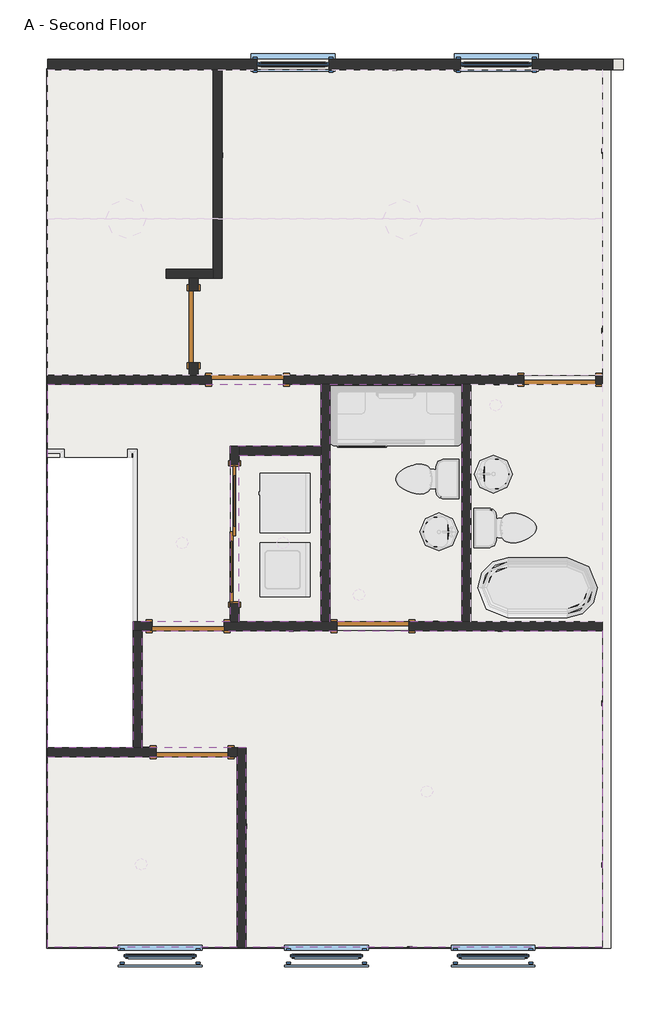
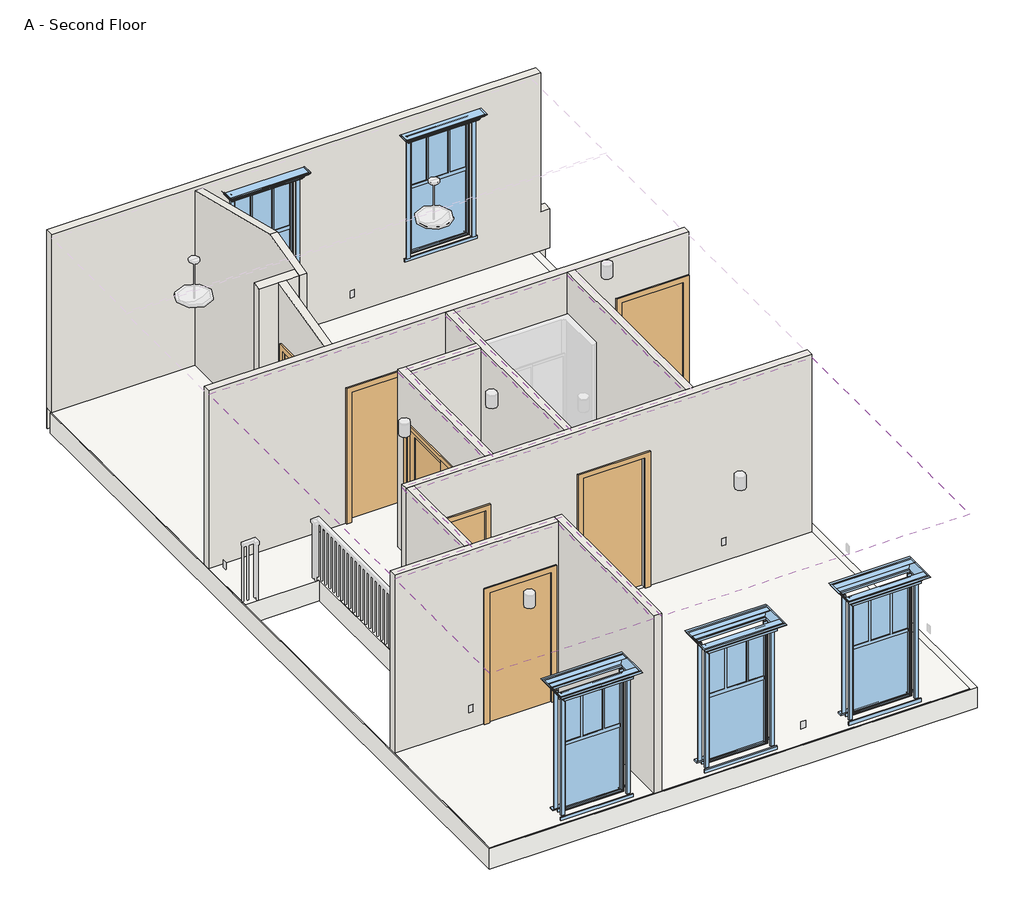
# One storey, part 1 of 2: 13 walls, 7 doors, 5 coverings, 5 windows, 2 slabs.
"""IFC4 building model written with IfcOpenShell, lengths in millimetres."""

from ifc_helpers import new_model, si_unit, point, frame, frame_2d, origin, place, context, project, spatial, polyline, circle_curve, trimmed, segment, composite_curve, outline, extrude, faceted_brep, transform, mapped, element, save
from components import door_2e073e5e, door_5e62189b, door_17d80c48, craftsman_style_single_window_l_craftsman_style_single_78b914de, craftsman_style_single_window_l_craftsman_style_single_4874115d

model = new_model("IFC4")

# Units and contexts
model_context = context("Model", 3, world=origin())
ifc_project = project(units=[si_unit("LENGTHUNIT", "METRE", prefix="MILLI")], contexts=[model_context])

# Site, building, storey
site = spatial("IfcSite", under=ifc_project)
building = spatial("IfcBuilding", under=site)
storey = spatial("IfcBuildingStorey", under=building, Name="A - Second Floor", Elevation=3371.85)

# Coverings
placement = place(None, origin())
element("IfcCovering", 1, ObjectType="GWB on Furring", at=placement, inside=storey, context=model_context, shape_type="SweptSolid", body=[
    extrude(outline(polyline([(-7798.9129486, -2982.5539462), (-8840.3129486, -2982.5539462), (-8840.3129486, -861.6539462), (-7798.9129486, -861.6539462), (-7798.9129486, -2982.5539462)]), holes=[composite_curve([segment(trimmed(circle_curve(frame_2d((-8284.6879486, -1979.2539462)), 76.2), [point((-8360.8879486, -1979.2539462))], [point((-8208.4879486, -1979.2539462))], True, "CARTESIAN"), True, "CONTINUOUS"), segment(trimmed(circle_curve(frame_2d((-8284.6879486, -1979.2539462)), 76.2), [point((-8208.4879486, -1979.2539462))], [point((-8360.8879486, -1979.2539462))], True, "CARTESIAN"), True, "CONTINUOUS")], self_intersect=False)]), frame((0.0, 0.0, 6089.65), z_axis=(0.0, 0.0, 1.0), x_axis=(1.0, 0.0, 0.0)), (0.0, 0.0, 1.0), 31.75),
])
element("IfcCovering", 2, ObjectType="GWB on Furring", at=placement, inside=storey, context=model_context, shape_type="SweptSolid", body=[
    extrude(outline(polyline([(-6008.2129486, -2982.5539462), (-7684.6129486, -2982.5539462), (-7684.6129486, 40.0460538), (-6008.2129486, 40.0460538), (-6008.2129486, -2982.5539462)]), holes=[composite_curve([segment(trimmed(circle_curve(frame_2d((-7316.3129486, -2639.6539462)), 76.2), [point((-7392.5129486, -2639.6539462))], [point((-7240.1129486, -2639.6539462))], True, "CARTESIAN"), True, "CONTINUOUS"), segment(trimmed(circle_curve(frame_2d((-7316.3129486, -2639.6539462)), 76.2), [point((-7240.1129486, -2639.6539462))], [point((-7392.5129486, -2639.6539462))], True, "CARTESIAN"), True, "CONTINUOUS")], self_intersect=False)]), frame((0.0, 0.0, 6089.65), z_axis=(0.0, 0.0, 1.0), x_axis=(1.0, 0.0, 0.0)), (0.0, 0.0, 1.0), 31.75),
])
element("IfcCovering", 3, ObjectType="GWB on Furring", at=placement, inside=storey, context=model_context, shape_type="SweptSolid", body=[
    extrude(outline(polyline([(-4217.5129486, -3096.8539462), (-4217.5129486, -7122.7539462), (-8754.5879486, -7122.7539462), (-8754.5879486, -4582.7539462), (-10075.3879486, -4582.7539462), (-10075.3879486, -3096.8539462), (-4217.5129486, -3096.8539462)]), holes=[composite_curve([segment(trimmed(circle_curve(frame_2d((-6452.7129486, -5141.5539462)), 76.2), [point((-6528.9129486, -5141.5539462))], [point((-6376.5129486, -5141.5539462))], True, "CARTESIAN"), True, "CONTINUOUS"), segment(trimmed(circle_curve(frame_2d((-6452.7129486, -5141.5539462)), 76.2), [point((-6376.5129486, -5141.5539462))], [point((-6528.9129486, -5141.5539462))], True, "CARTESIAN"), True, "CONTINUOUS")], self_intersect=False)]), frame((0.0, 0.0, 6089.65), z_axis=(0.0, 0.0, 1.0), x_axis=(1.0, 0.0, 0.0)), (0.0, 0.0, 1.0), 31.75),
])
element("IfcCovering", 4, ObjectType="GWB on Furring", at=placement, inside=storey, context=model_context, shape_type="SweptSolid", body=[
    extrude(outline(polyline([(-8868.8879486, -4697.0539462), (-8868.8879486, -7122.7539462), (-11281.8879486, -7122.7539462), (-11281.8879486, -4697.0539462), (-8868.8879486, -4697.0539462)]), holes=[composite_curve([segment(trimmed(circle_curve(frame_2d((-10088.0879486, -6068.6539462)), 76.2), [point((-10164.2879486, -6068.6539462))], [point((-10011.8879486, -6068.6539462))], True, "CARTESIAN"), True, "CONTINUOUS"), segment(trimmed(circle_curve(frame_2d((-10088.0879486, -6068.6539462)), 76.2), [point((-10011.8879486, -6068.6539462))], [point((-10164.2879486, -6068.6539462))], True, "CARTESIAN"), True, "CONTINUOUS")], self_intersect=False)]), frame((0.0, 0.0, 6089.65), z_axis=(0.0, 0.0, 1.0), x_axis=(1.0, 0.0, 0.0)), (0.0, 0.0, 1.0), 31.75),
])
element("IfcCovering", 5, ObjectType="GWB on Furring", at=placement, inside=storey, context=model_context, shape_type="SweptSolid", body=[
    extrude(outline(polyline([(-11281.8879486, -4582.7539462), (-11281.8879486, 40.0460538), (-7798.9129486, 40.0460538), (-7798.9129486, -747.3539462), (-8954.6129486, -747.3539462), (-8954.6129486, -2982.5539462), (-10189.6879486, -2982.5539462), (-10189.6879486, -4582.7539462), (-11281.8879486, -4582.7539462)]), holes=[composite_curve([segment(trimmed(circle_curve(frame_2d((-9567.3879486, -1979.2539462)), 76.2), [point((-9643.5879486, -1979.2539462))], [point((-9491.1879486, -1979.2539462))], True, "CARTESIAN"), True, "CONTINUOUS"), segment(trimmed(circle_curve(frame_2d((-9567.3879486, -1979.2539462)), 76.2), [point((-9491.1879486, -1979.2539462))], [point((-9643.5879486, -1979.2539462))], True, "CARTESIAN"), True, "CONTINUOUS")], self_intersect=False)]), frame((0.0, 0.0, 6089.65), z_axis=(0.0, 0.0, 1.0), x_axis=(1.0, 0.0, 0.0)), (0.0, 0.0, 1.0), 31.75),
])

# Doors
door_shape = door_2e073e5e(model_context)
element("IfcDoor", 6, ObjectType="Door-Interior-Double-Sliding-2_Panel-Wood : 68\" x 80\"", at=placement, inside=storey, context=model_context, shape_type="MappedRepresentation", body=[
    mapped(door_shape, transform((-8900.6379486, -1864.9539462, 3371.85), x_axis=(0.0, 1.0, 0.0), y_axis=(-1.0, 0.0, 0.0), z_axis=(0.0, 0.0, 1.0))),
])
door_2_shape = door_5e62189b(model_context)
element("IfcDoor", 7, ObjectType="Single-Flush : 36\" x 80\"", at=placement, inside=storey, context=model_context, shape_type="MappedRepresentation", body=[
    mapped(door_2_shape, transform((-9440.3879486, -4639.9039462, 3371.85), x_axis=(1.0, 0.0, 0.0), y_axis=(0.0, 1.0, 0.0), z_axis=(0.0, 0.0, 1.0))),
])
element("IfcDoor", 8, ObjectType="Single-Flush : 36\" x 80\"", at=placement, inside=storey, context=model_context, shape_type="MappedRepresentation", body=[
    mapped(door_2_shape, transform((-8733.9504486, 97.1960538, 3371.85), x_axis=(-1.0, 0.0, 0.0), y_axis=(0.0, -1.0, 0.0), z_axis=(0.0, 0.0, 1.0))),
])
element("IfcDoor", 9, ObjectType="Single-Flush : 36\" x 80\"", at=placement, inside=storey, context=model_context, shape_type="MappedRepresentation", body=[
    mapped(door_2_shape, transform((-9421.3379486, 770.2960538, 3371.85), x_axis=(0.0, -1.0, 0.0), y_axis=(1.0, 0.0, 0.0), z_axis=(0.0, 0.0, 1.0))),
])
element("IfcDoor", 10, ObjectType="Single-Flush : 36\" x 80\"", at=placement, inside=storey, context=model_context, shape_type="MappedRepresentation", body=[
    mapped(door_2_shape, transform((-7138.5129486, -3039.7039462, 3371.85), x_axis=(-1.0, 0.0, 0.0), y_axis=(0.0, -1.0, 0.0), z_axis=(0.0, 0.0, 1.0))),
])
element("IfcDoor", 11, ObjectType="Single-Flush : 36\" x 80\"", at=placement, inside=storey, context=model_context, shape_type="MappedRepresentation", body=[
    mapped(door_2_shape, transform((-4760.4379486, 97.1960538, 3371.85), x_axis=(1.0, 0.0, 0.0), y_axis=(0.0, 1.0, 0.0), z_axis=(0.0, 0.0, 1.0))),
])
door_3_shape = door_17d80c48(model_context)
element("IfcDoor", 12, ObjectType="Single-Flush : 36\" x 80\"", at=placement, inside=storey, context=model_context, shape_type="MappedRepresentation", body=[
    mapped(door_3_shape, transform((-9491.1879486, -3039.7039462, 3371.85), x_axis=(-1.0, 0.0, 0.0), y_axis=(0.0, -1.0, 0.0), z_axis=(0.0, 0.0, 1.0))),
])

# Slabs
element("IfcSlab", 13, ObjectType="Wood Truss  Joist 12\"", at=placement, inside=storey, context=model_context, shape_type="Brep", body=[
    faceted_brep([(-11294.5879486, 4053.2460538, 3051.175), (-11281.8879486, 4053.2460538, 3051.175), (-4217.5129486, 4053.2460538, 3051.175), (-4112.7379486, 4053.2460538, 3051.175), (-4112.7379486, 3430.9460538, 3051.175), (-4112.7379486, -7122.7539462, 3051.175), (-4112.7379486, -7135.4539462, 3051.175), (-11294.5879486, -7135.4539462, 3051.175), (-11294.5879486, -7122.7539462, 3051.175), (-11294.5879486, 3497.6210538, 3051.175), (-11281.8879486, -4582.7539462, 3051.175), (-10189.6879486, -4582.7539462, 3051.175), (-10189.6879486, -887.0539462, 3051.175), (-11281.8879486, -887.0539462, 3051.175), (-4112.7379486, 4053.2460538, 3371.85), (-4217.5129486, 4053.2460538, 3371.85), (-11281.8879486, 4053.2460538, 3371.85), (-11294.5879486, 4053.2460538, 3371.85), (-11294.5879486, 3497.6210538, 3371.85), (-11294.5879486, -7122.7539462, 3371.85), (-11294.5879486, -7135.4539462, 3371.85), (-4112.7379486, -7135.4539462, 3371.85), (-4112.7379486, -7122.7539462, 3371.85), (-4112.7379486, 3430.9460538, 3371.85), (-4112.7379486, 4040.5460538, 3371.85), (-10189.6879486, -4582.7539462, 3371.85), (-11281.8879486, -4582.7539462, 3371.85), (-11281.8879486, -887.0539462, 3371.85), (-10189.6879486, -887.0539462, 3371.85)], [[[0, 1, 2, 3, 4, 5, 6, 7, 8, 9], [10, 11, 12, 13]], [[14, 15, 16, 17, 18, 19, 20, 21, 22, 23, 24], [25, 26, 27, 28]], [[3, 2, 1, 0, 17, 16, 15, 14]], [[6, 5, 4, 3, 14, 24, 23, 22, 21]], [[7, 6, 21, 20]], [[0, 9, 8, 7, 20, 19, 18, 17]], [[10, 26, 25, 11]], [[11, 25, 28, 12]], [[12, 28, 27, 13]], [[26, 10, 13, 27]]]),
])
element("IfcSlab", 14, ObjectType="Carpet Finish - 1/8\"", at=placement, inside=storey, context=model_context, shape_type="SweptSolid", body=[
    extrude(outline(polyline([(-11281.8879486, -4697.0539462), (-9899.2794046, -4697.0539462), (-9899.2794046, -4570.0539462), (-10075.3879486, -4570.0539462), (-10075.3879486, -3096.8539462), (-9948.3879486, -3096.8539462), (-9948.3879486, -2982.5539462), (-10189.6879486, -2982.5539462), (-10189.6879486, -887.0539462), (-11281.8879486, -887.0539462), (-11281.8879486, 40.0460538), (-9191.1504486, 40.0460538), (-9191.1504486, 154.3460538), (-9364.1879486, 154.3460538), (-9364.1879486, 313.0960538), (-9478.4879486, 313.0960538), (-9478.4879486, 154.3460538), (-11281.8879486, 154.3460538), (-11281.8879486, 4040.5460538), (-9173.6879486, 4040.5460538), (-9173.6879486, 1500.5460538), (-9770.5879486, 1500.5460538), (-9770.5879486, 1386.2460538), (-9478.4879486, 1386.2460538), (-9478.4879486, 1229.1875098), (-9376.8879486, 1229.1875098), (-9364.1879486, 1386.2460538), (-9059.3879486, 1386.2460538), (-9059.3879486, 4040.5460538), (-4217.5129486, 4040.5460538), (-4217.5129486, 154.3460538), (-4303.2379486, 154.3460538), (-5217.6379486, 154.3460538), (-8276.7504486, 154.3460538), (-8276.7504486, 40.0460538), (-7798.9129486, 40.0460538), (-7798.9129486, -747.3539462), (-8954.6129486, -747.3539462), (-8954.6129486, -2982.5539462), (-9033.9879486, -2982.5539462), (-9033.9879486, -3096.8539462), (-7900.5129486, -3096.8539462), (-6986.1129486, -3096.8539462), (-4217.5129486, -3096.8539462), (-4217.5129486, -7122.7539462), (-8754.5879486, -7122.7539462), (-8754.5879486, -4582.7539462), (-8983.1879486, -4582.7539462), (-8983.1879486, -4697.0539462), (-8868.8879486, -4697.0539462), (-8868.8879486, -7122.7539462), (-11281.8879486, -7122.7539462), (-11281.8879486, -4697.0539462)])), frame((0.0, 0.0, 3371.85), z_axis=(0.0, 0.0, 1.0), x_axis=(1.0, 0.0, 0.0)), (0.0, 0.0, 1.0), 3.175),
])

# Walls
element("IfcWall", 15, ObjectType="Exterior - Wood Siding on Wood Stud", at=placement, inside=storey, context=model_context, shape_type="Brep", body=[
    faceted_brep([(-3950.8129486, 4173.8960538, 3051.175), (-11281.8879486, 4173.8960538, 3051.175), (-11281.8879486, 4173.8960538, 3371.85), (-11281.8879486, 4173.8960538, 6127.75), (-11281.8879486, 4173.8960538, 6140.45), (-4084.1629486, 4173.8960538, 6140.45), (-4084.1629486, 4173.8960538, 3981.45), (-3950.8129486, 4173.8960538, 3981.45), (-8614.8879486, 4173.8960538, 5784.85), (-8614.8879486, 4173.8960538, 3956.05), (-7700.4879486, 4173.8960538, 3956.05), (-7700.4879486, 4173.8960538, 5784.85), (-6024.0879486, 4173.8960538, 5784.85), (-6024.0879486, 4173.8960538, 3956.05), (-5109.6879486, 4173.8960538, 3956.05), (-5109.6879486, 4173.8960538, 5784.85), (-3950.8129486, 4040.5460538, 3371.85), (-3950.8129486, 4040.5460538, 3981.45), (-4084.1629486, 4040.5460538, 3981.45), (-4084.1629486, 4040.5460538, 6140.45), (-11281.8879486, 4040.5460538, 6140.45), (-11281.8879486, 4040.5460538, 3371.85), (-9173.6879486, 4040.5460538, 3371.85), (-9059.3879486, 4040.5460538, 3371.85), (-4217.5129486, 4040.5460538, 3371.85), (-8614.8879486, 4040.5460538, 5784.85), (-7700.4879486, 4040.5460538, 5784.85), (-7700.4879486, 4040.5460538, 3956.05), (-8614.8879486, 4040.5460538, 3956.05), (-6024.0879486, 4040.5460538, 5784.85), (-5109.6879486, 4040.5460538, 5784.85), (-5109.6879486, 4040.5460538, 3956.05), (-6024.0879486, 4040.5460538, 3956.05), (-11281.8879486, 4154.8460538, 3051.175), (-11281.8879486, 4154.8460538, 3371.85), (-11281.8879486, 4107.2210538, 3371.85), (-11281.8879486, 4053.2460538, 3371.85), (-3950.8129486, 4107.2210538, 3371.85), (-3950.8129486, 4154.8460538, 3371.85), (-3950.8129486, 4154.8460538, 3051.175), (-4084.1629486, 4154.8460538, 3981.45)], [[[0, 1, 2, 3, 4, 5, 6, 7], [8, 9, 10, 11], [12, 13, 14, 15]], [[16, 17, 18, 19, 20, 21, 22, 23, 24], [25, 26, 27, 28], [29, 30, 31, 32]], [[5, 4, 20, 19]], [[4, 3, 2, 1, 33, 34, 35, 36, 21, 20]], [[0, 7, 17, 16, 37, 38, 39]], [[38, 37, 16, 24, 23, 22, 21, 36, 35, 34]], [[33, 39, 38, 34]], [[1, 0, 39, 33]], [[9, 8, 25, 28]], [[10, 9, 28, 27]], [[11, 10, 27, 26]], [[8, 11, 26, 25]], [[13, 12, 29, 32]], [[14, 13, 32, 31]], [[15, 14, 31, 30]], [[12, 15, 30, 29]], [[5, 19, 18, 40, 6]], [[6, 40, 18, 17, 7]]]),
])
element("IfcWall", 16, ObjectType="Interior - 4 1/2\" Partition", at=placement, inside=storey, context=model_context, shape_type="Brep", body=[
    faceted_brep([(-9033.9879486, -3096.8539462, 3371.85), (-7595.7129486, -3096.8539462, 3371.85), (-7595.7129486, -3096.8539462, 5403.85), (-6681.3129486, -3096.8539462, 5403.85), (-6681.3129486, -3096.8539462, 3371.85), (-4217.5129486, -3096.8539462, 3371.85), (-4217.5129486, -3096.8539462, 6140.45), (-10075.3879486, -3096.8539462, 6140.45), (-10189.6879486, -3096.8539462, 6140.45), (-10189.6879486, -3096.8539462, 3371.85), (-10075.3879486, -3096.8539462, 3371.85), (-9948.3879486, -3096.8539462, 3371.85), (-9948.3879486, -3096.8539462, 5403.85), (-9033.9879486, -3096.8539462, 5403.85), (-7595.7129486, -2982.5539462, 5403.85), (-7595.7129486, -2982.5539462, 3371.85), (-7684.6129486, -2982.5539462, 3371.85), (-7798.9129486, -2982.5539462, 3371.85), (-8840.3129486, -2982.5539462, 3371.85), (-8954.6129486, -2982.5539462, 3371.85), (-9033.9879486, -2982.5539462, 3371.85), (-9033.9879486, -2982.5539462, 5403.85), (-9948.3879486, -2982.5539462, 5403.85), (-9948.3879486, -2982.5539462, 3371.85), (-10189.6879486, -2982.5539462, 3371.85), (-10189.6879486, -2982.5539462, 6140.45), (-8954.6129486, -2982.5539462, 6140.45), (-8840.3129486, -2982.5539462, 6140.45), (-7798.9129486, -2982.5539462, 6140.45), (-7684.6129486, -2982.5539462, 6140.45), (-6008.2129486, -2982.5539462, 6140.45), (-5893.9129486, -2982.5539462, 6140.45), (-4217.5129486, -2982.5539462, 6140.45), (-4217.5129486, -2982.5539462, 3371.85), (-5893.9129486, -2982.5539462, 3371.85), (-6008.2129486, -2982.5539462, 3371.85), (-6681.3129486, -2982.5539462, 3371.85), (-6681.3129486, -2982.5539462, 5403.85)], [[[0, 1, 2, 3, 4, 5, 6, 7, 8, 9, 10, 11, 12, 13]], [[14, 15, 16, 17, 18, 19, 20, 21, 22, 23, 24, 25, 26, 27, 28, 29, 30, 31, 32, 33, 34, 35, 36, 37]], [[24, 23, 11, 10, 9]], [[36, 35, 34, 33, 5, 4]], [[20, 19, 18, 17, 16, 15, 1, 0]], [[8, 7, 6, 32, 31, 30, 29, 28, 27, 26, 25]], [[12, 11, 23, 22]], [[13, 12, 22, 21]], [[0, 13, 21, 20]], [[2, 1, 15, 14]], [[3, 2, 14, 37]], [[4, 3, 37, 36]], [[9, 8, 25, 24]], [[5, 33, 32, 6]]]),
])
element("IfcWall", 17, ObjectType="Interior - 4 1/2\" Partition", at=placement, inside=storey, context=model_context, shape_type="Brep", body=[
    faceted_brep([(-4217.5129486, 154.3460538, 3371.85), (-4303.2379486, 154.3460538, 3371.85), (-4303.2379486, 154.3460538, 5403.85), (-5217.6379486, 154.3460538, 5403.85), (-5217.6379486, 154.3460538, 3371.85), (-8276.7504486, 154.3460538, 3371.85), (-8276.7504486, 154.3460538, 5403.85), (-9191.1504486, 154.3460538, 5403.85), (-9191.1504486, 154.3460538, 3371.85), (-9364.1879486, 154.3460538, 3371.85), (-9478.4879486, 154.3460538, 3371.85), (-11281.8879486, 154.3460538, 3371.85), (-11281.8879486, 154.3460538, 6140.45), (-4217.5129486, 154.3460538, 6140.45), (-4303.2379486, 40.0460538, 5403.85), (-4303.2379486, 40.0460538, 3371.85), (-4217.5129486, 40.0460538, 3371.85), (-4217.5129486, 40.0460538, 6140.45), (-5893.9129486, 40.0460538, 6140.45), (-6008.2129486, 40.0460538, 6140.45), (-7684.6129486, 40.0460538, 6140.45), (-7798.9129486, 40.0460538, 6140.45), (-11281.8879486, 40.0460538, 6140.45), (-11281.8879486, 40.0460538, 3371.85), (-9191.1504486, 40.0460538, 3371.85), (-9191.1504486, 40.0460538, 5403.85), (-8276.7504486, 40.0460538, 5403.85), (-8276.7504486, 40.0460538, 3371.85), (-7798.9129486, 40.0460538, 3371.85), (-7684.6129486, 40.0460538, 3371.85), (-6008.2129486, 40.0460538, 3371.85), (-5893.9129486, 40.0460538, 3371.85), (-5217.6379486, 40.0460538, 3371.85), (-5217.6379486, 40.0460538, 5403.85)], [[[0, 1, 2, 3, 4, 5, 6, 7, 8, 9, 10, 11, 12, 13]], [[14, 15, 16, 17, 18, 19, 20, 21, 22, 23, 24, 25, 26, 27, 28, 29, 30, 31, 32, 33]], [[11, 10, 9, 8, 24, 23]], [[16, 15, 1, 0]], [[32, 31, 30, 29, 28, 27, 5, 4]], [[13, 12, 22, 21, 20, 19, 18, 17]], [[12, 11, 23, 22]], [[25, 24, 8, 7]], [[26, 25, 7, 6]], [[27, 26, 6, 5]], [[2, 1, 15, 14]], [[3, 2, 14, 33]], [[4, 3, 33, 32]], [[13, 17, 16, 0]]]),
])
element("IfcWall", 18, ObjectType="Interior - 4 1/2\" Partition", at=placement, inside=storey, context=model_context, shape_type="Brep", body=[
    faceted_brep([(-9173.6879486, 4040.5460538, 3371.85), (-9173.6879486, 1500.5460538, 3371.85), (-9173.6879486, 1386.2460538, 3371.85), (-9173.6879486, 1386.2460538, 6375.4), (-9173.6879486, 1500.5460538, 6403.975), (-9173.6879486, 2141.8960538, 6564.3125), (-9173.6879486, 4040.5460538, 6089.65), (-9059.3879486, 4040.5460538, 3371.85), (-9059.3879486, 4040.5460538, 6089.65), (-9059.3879486, 2141.8960538, 6564.3125), (-9059.3879486, 1386.2460538, 6375.4), (-9059.3879486, 1386.2460538, 3371.85)], [[[0, 1, 2, 3, 4, 5, 6]], [[7, 8, 9, 10, 11]], [[2, 1, 0, 7, 11]], [[0, 6, 8, 7]], [[3, 2, 11, 10]], [[6, 5, 9, 8]], [[5, 4, 3, 10, 9]]]),
])
element("IfcWall", 19, ObjectType="Interior - 4 1/2\" Partition", at=placement, inside=storey, context=model_context, shape_type="Brep", body=[
    faceted_brep([(-9173.6879486, 1500.5460538, 3371.85), (-9770.5879486, 1500.5460538, 3371.85), (-9770.5879486, 1500.5460538, 6403.975), (-9173.6879486, 1500.5460538, 6403.975), (-9173.6879486, 1386.2460538, 3371.85), (-9173.6879486, 1386.2460538, 6375.4), (-9364.1879486, 1386.2460538, 6375.4), (-9478.4879486, 1386.2460538, 6375.4), (-9770.5879486, 1386.2460538, 6375.4), (-9770.5879486, 1386.2460538, 3371.85), (-9478.4879486, 1386.2460538, 3371.85), (-9364.1879486, 1386.2460538, 3371.85)], [[[0, 1, 2, 3]], [[4, 5, 6, 7, 8, 9, 10, 11]], [[1, 0, 4, 11, 10, 9]], [[2, 1, 9, 8]], [[0, 3, 5, 4]], [[3, 2, 8, 7, 6, 5]]]),
])
element("IfcWall", 20, ObjectType="Interior - 4 1/2\" Partition", at=placement, inside=storey, context=model_context, shape_type="SweptSolid", body=[
    extrude(outline(polyline([(313.0960538, 5403.85), (313.0960538, 3371.85), (154.3460538, 3371.85), (154.3460538, 6067.425), (1386.2460538, 6375.4), (1386.2460538, 3371.85), (1227.4960538, 3371.85), (1227.4960538, 5403.85), (313.0960538, 5403.85)])), frame((-9478.4879486, 0.0, 0.0), z_axis=(1.0, 0.0, 0.0), x_axis=(0.0, 1.0, 0.0)), (0.0, 0.0, 1.0), 114.3),
])
element("IfcWall", 21, ObjectType="Interior - 4 1/2\" Partition", at=placement, inside=storey, context=model_context, shape_type="SweptSolid", body=[
    extrude(outline(polyline([(-6008.2129486, -2982.5539462), (-6008.2129486, 40.0460538), (-5893.9129486, 40.0460538), (-5893.9129486, -2982.5539462), (-6008.2129486, -2982.5539462)])), frame((0.0, 0.0, 3371.85), z_axis=(0.0, 0.0, 1.0), x_axis=(1.0, 0.0, 0.0)), (0.0, 0.0, 1.0), 2768.6),
])
element("IfcWall", 22, ObjectType="Interior - 4 1/2\" Partition", at=placement, inside=storey, context=model_context, shape_type="Brep", body=[
    faceted_brep([(-7798.9129486, 40.0460538, 3371.85), (-7798.9129486, -747.3539462, 3371.85), (-7798.9129486, -861.6539462, 3371.85), (-7798.9129486, -2982.5539462, 3371.85), (-7798.9129486, -2982.5539462, 6140.45), (-7798.9129486, -861.6539462, 6140.45), (-7798.9129486, -747.3539462, 6140.45), (-7798.9129486, 40.0460538, 6140.45), (-7684.6129486, 40.0460538, 3371.85), (-7684.6129486, 40.0460538, 6140.45), (-7684.6129486, -2982.5539462, 6140.45), (-7684.6129486, -2982.5539462, 3371.85)], [[[0, 1, 2, 3, 4, 5, 6, 7]], [[8, 9, 10, 11]], [[3, 2, 1, 0, 8, 11]], [[7, 6, 5, 4, 10, 9]], [[4, 3, 11, 10]], [[0, 7, 9, 8]]]),
])
element("IfcWall", 23, ObjectType="Interior - 4 1/2\" Partition", at=placement, inside=storey, context=model_context, shape_type="Brep", body=[
    faceted_brep([(-8840.3129486, -747.3539462, 6140.45), (-8840.3129486, -861.6539462, 6140.45), (-8840.3129486, -2982.5539462, 6140.45), (-8840.3129486, -2982.5539462, 3371.85), (-8840.3129486, -2753.9539462, 3371.85), (-8840.3129486, -2753.9539462, 5429.25), (-8840.3129486, -975.9539462, 5429.25), (-8840.3129486, -975.9539462, 3371.85), (-8840.3129486, -861.6539462, 3371.85), (-8840.3129486, -747.3539462, 3371.85), (-8954.6129486, -2982.5539462, 6140.45), (-8954.6129486, -747.3539462, 6140.45), (-8954.6129486, -747.3539462, 3371.85), (-8954.6129486, -975.9539462, 3371.85), (-8954.6129486, -975.9539462, 5429.25), (-8954.6129486, -2753.9539462, 5429.25), (-8954.6129486, -2753.9539462, 3371.85), (-8954.6129486, -2982.5539462, 3371.85)], [[[0, 1, 2, 3, 4, 5, 6, 7, 8, 9]], [[10, 11, 12, 13, 14, 15, 16, 17]], [[3, 17, 16, 4]], [[12, 9, 8, 7, 13]], [[2, 1, 0, 11, 10]], [[3, 2, 10, 17]], [[0, 9, 12, 11]], [[6, 14, 13, 7]], [[14, 6, 5, 15]], [[15, 5, 4, 16]]]),
])
element("IfcWall", 24, ObjectType="Interior - 4 1/2\" Partition", at=placement, inside=storey, context=model_context, shape_type="SweptSolid", body=[
    extrude(outline(polyline([(-7798.9129486, -861.6539462), (-8840.3129486, -861.6539462), (-8840.3129486, -747.3539462), (-7798.9129486, -747.3539462), (-7798.9129486, -861.6539462)])), frame((0.0, 0.0, 3371.85), z_axis=(0.0, 0.0, 1.0), x_axis=(1.0, 0.0, 0.0)), (0.0, 0.0, 1.0), 2768.6),
])
element("IfcWall", 25, ObjectType="Interior - 4 1/2\" Partition", at=placement, inside=storey, context=model_context, shape_type="Brep", body=[
    faceted_brep([(-8754.5879486, -7122.7539462, 3371.85), (-8754.5879486, -4582.7539462, 3371.85), (-8754.5879486, -4582.7539462, 6140.45), (-8754.5879486, -7122.7539462, 6140.45), (-8868.8879486, -7122.7539462, 3371.85), (-8868.8879486, -7122.7539462, 6140.45), (-8868.8879486, -4697.0539462, 6140.45), (-8868.8879486, -4582.7539462, 6140.45), (-8868.8879486, -4582.7539462, 3371.85), (-8868.8879486, -4697.0539462, 3371.85)], [[[0, 1, 2, 3]], [[4, 5, 6, 7, 8, 9]], [[1, 0, 4, 9, 8]], [[3, 2, 7, 6, 5]], [[0, 3, 5, 4]], [[2, 1, 8, 7]]]),
])
element("IfcWall", 26, ObjectType="Interior - 4 1/2\" Partition", at=placement, inside=storey, context=model_context, shape_type="Brep", body=[
    faceted_brep([(-8868.8879486, -4582.7539462, 3371.85), (-8983.1879486, -4582.7539462, 3371.85), (-8983.1879486, -4582.7539462, 5403.85), (-9897.5879486, -4582.7539462, 5403.85), (-9897.5879486, -4582.7539462, 3371.85), (-10075.3879486, -4582.7539462, 3371.85), (-10189.6879486, -4582.7539462, 3371.85), (-11281.8879486, -4582.7539462, 3371.85), (-11281.8879486, -4582.7539462, 6140.45), (-10189.6879486, -4582.7539462, 6140.45), (-10075.3879486, -4582.7539462, 6140.45), (-8868.8879486, -4582.7539462, 6140.45), (-8983.1879486, -4697.0539462, 5403.85), (-8983.1879486, -4697.0539462, 3371.85), (-8868.8879486, -4697.0539462, 3371.85), (-8868.8879486, -4697.0539462, 6140.45), (-11281.8879486, -4697.0539462, 6140.45), (-11281.8879486, -4697.0539462, 3371.85), (-9897.5879486, -4697.0539462, 3371.85), (-9897.5879486, -4697.0539462, 5403.85)], [[[0, 1, 2, 3, 4, 5, 6, 7, 8, 9, 10, 11]], [[12, 13, 14, 15, 16, 17, 18, 19]], [[18, 17, 7, 6, 5, 4]], [[14, 13, 1, 0]], [[11, 10, 9, 8, 16, 15]], [[0, 11, 15, 14]], [[8, 7, 17, 16]], [[2, 1, 13, 12]], [[3, 2, 12, 19]], [[4, 3, 19, 18]]]),
])
element("IfcWall", 27, ObjectType="Interior - 4 1/2\" Partition", at=placement, inside=storey, context=model_context, shape_type="SweptSolid", body=[
    extrude(outline(polyline([(-10075.3879486, -3096.8539462), (-10075.3879486, -4582.7539462), (-10189.6879486, -4582.7539462), (-10189.6879486, -3096.8539462), (-10075.3879486, -3096.8539462)])), frame((0.0, 0.0, 3371.85), z_axis=(0.0, 0.0, 1.0), x_axis=(1.0, 0.0, 0.0)), (0.0, 0.0, 1.0), 2768.6),
])

# Windows
craftsman_style_single_window_l_craftsman_style_single_shape = craftsman_style_single_window_l_craftsman_style_single_78b914de(model_context)
element("IfcWindow", 28, ObjectType="Craftsman_Style_Single_Window_L : Craftsman_Style_Single_Window_L", at=placement, inside=storey, context=model_context, shape_type="MappedRepresentation", body=[
    mapped(craftsman_style_single_window_l_craftsman_style_single_shape, transform((-8157.6879486, 4107.2210538, 3041.65), x_axis=(-1.0, 0.0, 0.0), y_axis=(0.0, -1.0, 0.0), z_axis=(0.0, 0.0, 1.0))),
])
element("IfcWindow", 29, ObjectType="Craftsman_Style_Single_Window_L : Craftsman_Style_Single_Window_L", at=placement, inside=storey, context=model_context, shape_type="MappedRepresentation", body=[
    mapped(craftsman_style_single_window_l_craftsman_style_single_shape, transform((-5566.8879486, 4107.2210538, 3041.65), x_axis=(-1.0, 0.0, 0.0), y_axis=(0.0, -1.0, 0.0), z_axis=(0.0, 0.0, 1.0))),
])
craftsman_style_single_window_l_craftsman_style_single_2_shape = craftsman_style_single_window_l_craftsman_style_single_4874115d(model_context)
element("IfcWindow", 30, ObjectType="Craftsman_Style_Single_Window_L : Craftsman_Style_Single_Window_L", at=placement, inside=storey, context=model_context, shape_type="MappedRepresentation", body=[
    mapped(craftsman_style_single_window_l_craftsman_style_single_2_shape, transform((-5609.067591, -7238.6414462, 2762.25), x_axis=(-1.0, 0.0, 0.0), y_axis=(0.0, -1.0, 0.0), z_axis=(0.0, 0.0, 1.0))),
])
element("IfcWindow", 31, ObjectType="Craftsman_Style_Single_Window_L : Craftsman_Style_Single_Window_L", at=placement, inside=storey, context=model_context, shape_type="MappedRepresentation", body=[
    mapped(craftsman_style_single_window_l_craftsman_style_single_2_shape, transform((-9846.326876, -7238.6414462, 2762.25), x_axis=(-1.0, 0.0, 0.0), y_axis=(0.0, -1.0, 0.0), z_axis=(0.0, 0.0, 1.0))),
])
element("IfcWindow", 32, ObjectType="Craftsman_Style_Single_Window_L : Craftsman_Style_Single_Window_L", at=placement, inside=storey, context=model_context, shape_type="MappedRepresentation", body=[
    mapped(craftsman_style_single_window_l_craftsman_style_single_2_shape, transform((-7727.6972335, -7238.6414462, 2762.25), x_axis=(-1.0, 0.0, 0.0), y_axis=(0.0, -1.0, 0.0), z_axis=(0.0, 0.0, 1.0))),
])

save(model, "model.ifc")
